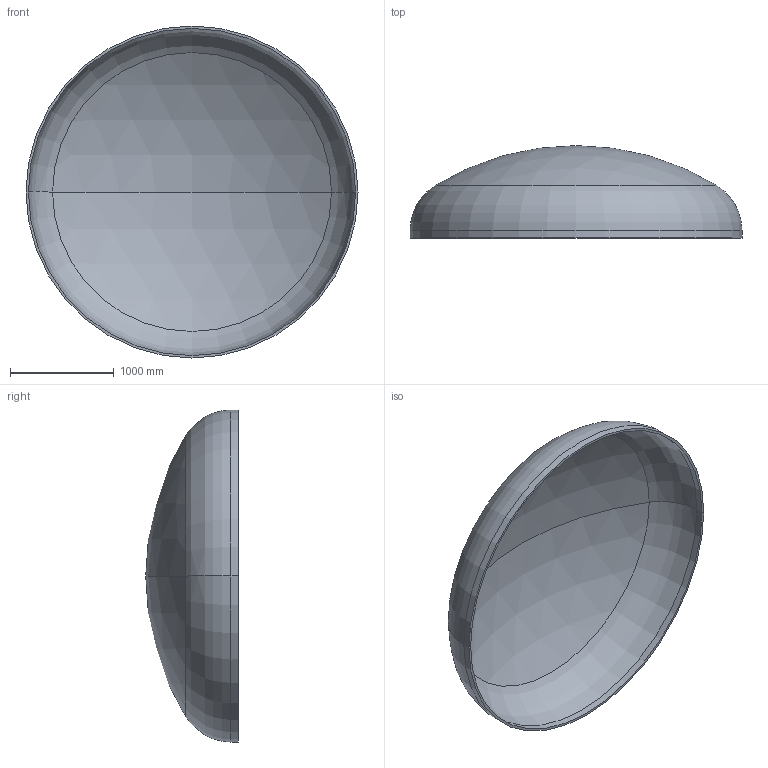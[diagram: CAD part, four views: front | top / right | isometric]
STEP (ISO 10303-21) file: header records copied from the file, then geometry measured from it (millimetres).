
FILE_DESCRIPTION (( 'STEP AP203' ), '1' );
FILE_NAME ('DIN 28013 Korbbogenform_-_Boden DIN 28013 - 3200 x 70 - I - s=23.step', '2016-07-01T18:25:53', ( '' ), ( '' ), 'SwSTEP 2.0', 'SolidWorks 2013', '' );
FILE_SCHEMA (( 'CONFIG_CONTROL_DESIGN' ));
Length unit declared in the file: millimetre
Products named in the file (1): DIN 28013 Korbbogenform_-_Boden DIN 28013 - 3200 x 70 - I - s=23
Bounding box: 3200 x 891.37 x 3200 mm (x, y, z)
Volume: 269557586.9 mm3; surface area: 23670448.4 mm2
Topology: 1 solids, 1 shells, 13 faces, 24 edges, 14 vertices
Faces by surface type: torus 4, cylinder 4, sphere 4, plane 1
Entity records: 407 total; most frequent: DIRECTION 72, CARTESIAN_POINT 52, ORIENTED_EDGE 48, AXIS2_PLACEMENT_3D 34, EDGE_CURVE 24, CIRCLE 20, EDGE_LOOP 14, VERTEX_POINT 14
